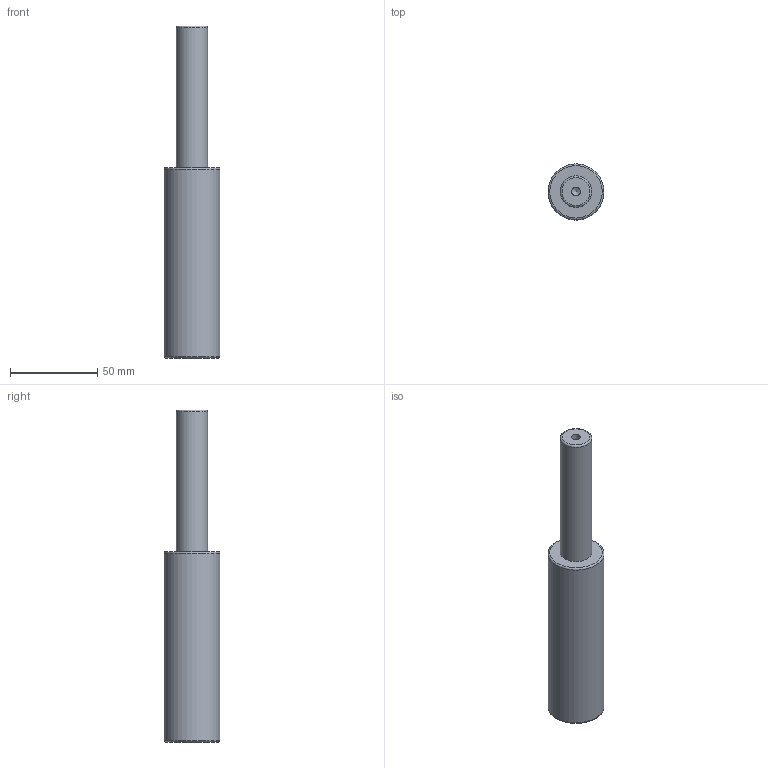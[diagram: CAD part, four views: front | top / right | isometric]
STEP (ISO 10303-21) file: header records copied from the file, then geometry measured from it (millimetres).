
FILE_DESCRIPTION(/* description */ (''),/* implementation_level */ '2;1');
FILE_NAME(/* name */ 'NV5-SMLX.32x80.stp',/* time_stamp */ '2018-08-31T16:08:36+02:00',/* author */ (''),/* organization */ (''),/* preprocessor_version */ 'ST-DEVELOPER v16',/* originating_system */ 'SIEMENS PLM Software NX 10.0',/* authorisation */ '');
FILE_SCHEMA (('AUTOMOTIVE_DESIGN { 1 0 10303 214 3 1 1 1 }'));
Length unit declared in the file: millimetre
Products named in the file (1): NV5-SMLX.32x80
Bounding box: 32 x 32 x 190 mm (x, y, z)
Volume: 107769 mm3; surface area: 17387 mm2
Topology: 1 solids, 1 shells, 12 faces, 24 edges, 15 vertices
Faces by surface type: cylinder 4, torus 3, plane 3, cone 2
Full cylindrical faces by diameter (mm): 5 x2, 18 x1, 32 x1
Entity records: 266 total; most frequent: DIRECTION 48, CARTESIAN_POINT 37, FACE_BOUND 24, AXIS2_PLACEMENT_3D 24, EDGE_LOOP 22, ORIENTED_EDGE 22, VERTEX_POINT 13, ADVANCED_FACE 12
